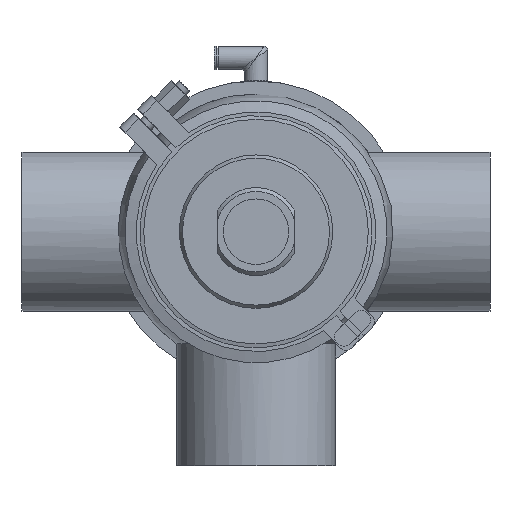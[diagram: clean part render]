
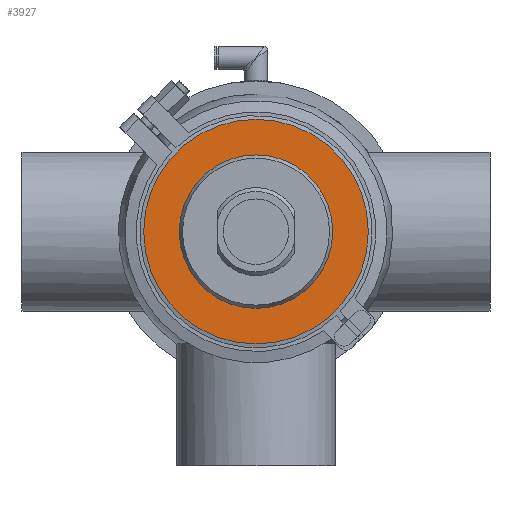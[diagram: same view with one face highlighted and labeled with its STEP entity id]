
A CAD part, front view. The second image highlights one B-rep face of the part: STEP entity #3927.
In plain terms, the highlighted planar face has unit normal (0, -1, 0).
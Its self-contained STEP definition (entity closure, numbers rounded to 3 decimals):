
#352 = CARTESIAN_POINT ( 'NONE',  ( 0., -13., 41. ) ) ;
#986 = DIRECTION ( 'NONE',  ( 0., -1., 0. ) ) ;
#1604 = EDGE_CURVE ( 'NONE', #9470, #9470, #19589, .T. ) ;
#2236 = DIRECTION ( 'NONE',  ( 0., 0., 1. ) ) ;
#2854 = AXIS2_PLACEMENT_3D ( 'NONE', #16352, #12586, #14237 ) ;
#3927 = ADVANCED_FACE ( 'NONE', ( #7671, #14804 ), #6265, .T. ) ;
#5765 = CARTESIAN_POINT ( 'NONE',  ( 0., -13., 0. ) ) ;
#6265 = PLANE ( 'NONE',  #6561 ) ;
#6561 = AXIS2_PLACEMENT_3D ( 'NONE', #13369, #986, #20507 ) ;
#7671 = FACE_BOUND ( 'NONE', #19566, .T. ) ;
#9470 = VERTEX_POINT ( 'NONE', #352 ) ;
#10633 = ORIENTED_EDGE ( 'NONE', *, *, #18171, .F. ) ;
#11132 = DIRECTION ( 'NONE',  ( 0., 1., 0. ) ) ;
#12105 = AXIS2_PLACEMENT_3D ( 'NONE', #5765, #11132, #2236 ) ;
#12472 = EDGE_LOOP ( 'NONE', ( #10633 ) ) ;
#12547 = CIRCLE ( 'NONE', #2854, 60. ) ;
#12586 = DIRECTION ( 'NONE',  ( 0., 1., 0. ) ) ;
#13369 = CARTESIAN_POINT ( 'NONE',  ( -60., -13., 0. ) ) ;
#13880 = CARTESIAN_POINT ( 'NONE',  ( 0., -13., 60. ) ) ;
#14237 = DIRECTION ( 'NONE',  ( 0., 0., 1. ) ) ;
#14804 = FACE_OUTER_BOUND ( 'NONE', #12472, .T. ) ;
#16352 = CARTESIAN_POINT ( 'NONE',  ( 0., -13., 0. ) ) ;
#18171 = EDGE_CURVE ( 'NONE', #19032, #19032, #12547, .T. ) ;
#18412 = ORIENTED_EDGE ( 'NONE', *, *, #1604, .T. ) ;
#19032 = VERTEX_POINT ( 'NONE', #13880 ) ;
#19566 = EDGE_LOOP ( 'NONE', ( #18412 ) ) ;
#19589 = CIRCLE ( 'NONE', #12105, 41. ) ;
#20507 = DIRECTION ( 'NONE',  ( 0., 0., -1. ) ) ;
